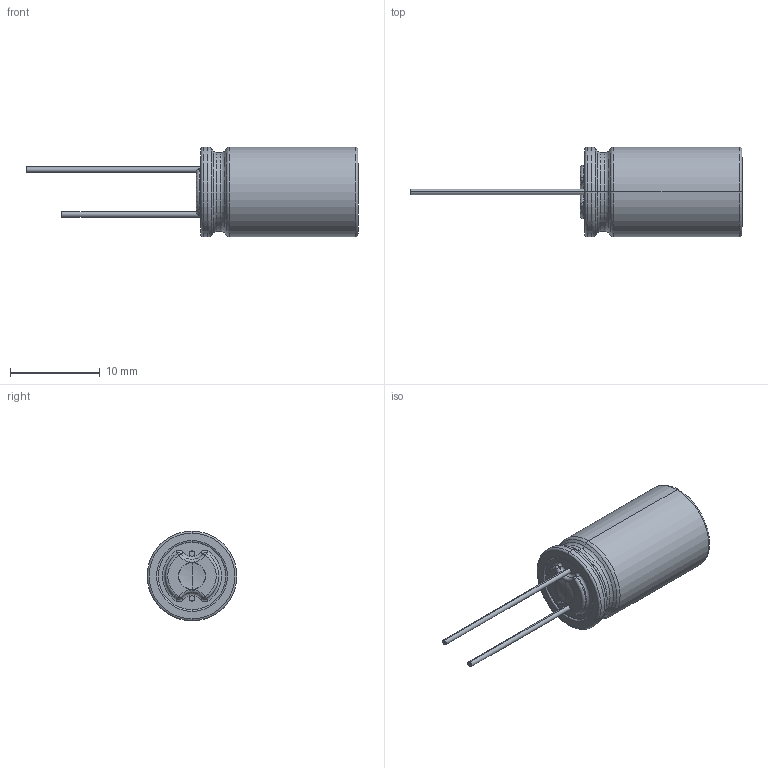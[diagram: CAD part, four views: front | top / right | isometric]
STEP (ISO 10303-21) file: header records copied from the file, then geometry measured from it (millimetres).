
FILE_DESCRIPTION((''),'2;1');
FILE_NAME('HYBRID_RADIAL10X18','2020-05-20T',('xy'),(''),'PRO/ENGINEER BY PARAMETRIC TECHNOLOGY CORPORATION, 2009380','PRO/ENGINEER BY PARAMETRIC TECHNOLOGY CORPORATION, 2009380','');
FILE_SCHEMA(('CONFIG_CONTROL_DESIGN'));
Length unit declared in the file: millimetre
Products named in the file (1): HYBRID_RADIAL10X18
Bounding box: 37.01 x 10 x 10 mm (x, y, z)
Volume: 1364.9 mm3; surface area: 785.5 mm2
Topology: 1 solids, 1 shells, 448 faces, 1216 edges, 795 vertices
Faces by surface type: plane 388, torus 29, cylinder 21, sphere 4, cone 4, bspline 2
Entity records: 13930 total; most frequent: CARTESIAN_POINT 2521, ORIENTED_EDGE 2428, DIRECTION 2210, EDGE_CURVE 1214, VECTOR 1106, LINE 1106, VERTEX_POINT 795, AXIS2_PLACEMENT_3D 552
